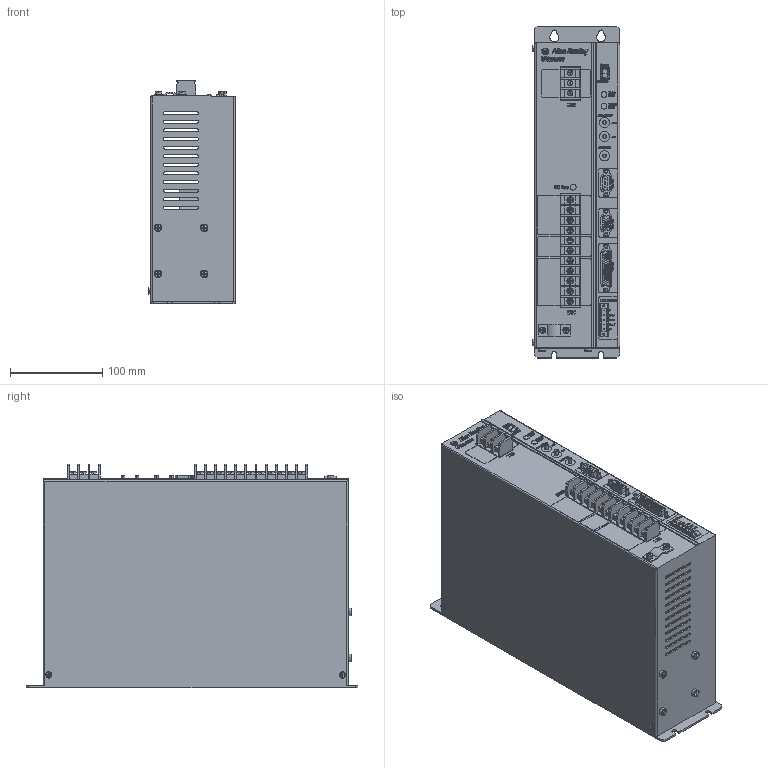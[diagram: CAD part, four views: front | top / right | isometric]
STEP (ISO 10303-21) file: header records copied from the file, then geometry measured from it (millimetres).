
FILE_DESCRIPTION (( 'STEP AP214' ), '1' );
FILE_NAME ('Rockwell Automation-2098-DSD-030X-DN.STEP', '2015-07-07T17:54:10', ( 'Windows User' ), ( '' ), 'SwSTEP 2.0', 'SolidWorks 2015', '' );
FILE_SCHEMA (( 'AUTOMOTIVE_DESIGN' ));
Length unit declared in the file: millimetre
Products named in the file (1): Rockwell Automation-2098-DSD-030X-DN
Bounding box: 95.12 x 360.68 x 242.87 mm (x, y, z)
Volume: 789002.1 mm3; surface area: 533806.1 mm2
Topology: 1 solids, 1 shells, 3653 faces, 9814 edges, 6528 vertices
Faces by surface type: plane 2008, bspline 1070, cylinder 503, torus 72
Entity records: 190039 total; most frequent: CARTESIAN_POINT 72633, ORIENTED_EDGE 19628, DIRECTION 13928, EDGE_CURVE 9814, VERTEX_POINT 6528, VECTOR 6340, LINE 6340, EDGE_LOOP 4072
